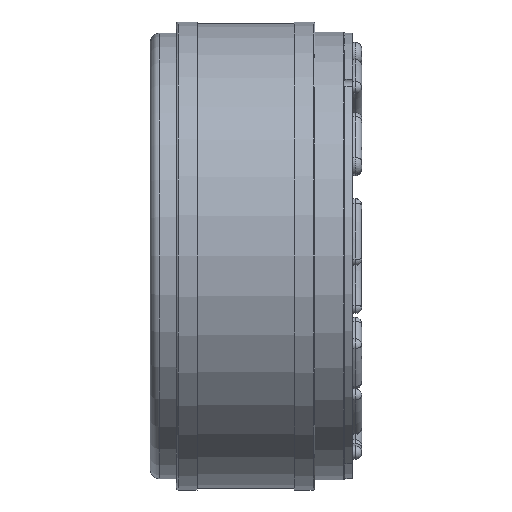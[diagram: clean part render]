
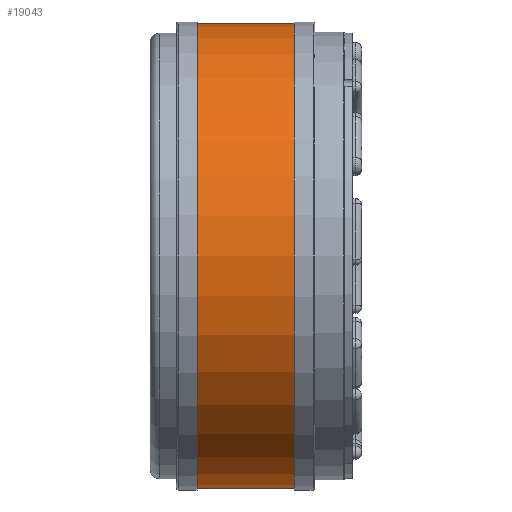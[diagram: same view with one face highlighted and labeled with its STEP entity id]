
A CAD part, front view. The second image highlights one B-rep face of the part: STEP entity #19043.
In plain terms, the highlighted cylindrical face has radius 24.8 mm (diameter 49.6 mm), a partial arc.
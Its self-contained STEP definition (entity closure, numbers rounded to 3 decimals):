
#1641 = AXIS2_PLACEMENT_3D ( 'NONE', #20665, #4013, #23442 ) ;
#2649 = VECTOR ( 'NONE', #5256, 1000. ) ;
#3205 = CARTESIAN_POINT ( 'NONE',  ( 5., 0., 0. ) ) ;
#3665 = EDGE_CURVE ( 'NONE', #8756, #9602, #19454, .T. ) ;
#4013 = DIRECTION ( 'NONE',  ( -1., 0., 0. ) ) ;
#4210 = CARTESIAN_POINT ( 'NONE',  ( 15.4, 0., 24.8 ) ) ;
#5256 = DIRECTION ( 'NONE',  ( -1., 0., 0. ) ) ;
#5510 = LINE ( 'NONE', #30630, #15941 ) ;
#6014 = DIRECTION ( 'NONE',  ( 0., 0., 1. ) ) ;
#8756 = VERTEX_POINT ( 'NONE', #16903 ) ;
#9602 = VERTEX_POINT ( 'NONE', #35247 ) ;
#10061 = LINE ( 'NONE', #30289, #2649 ) ;
#10252 = EDGE_CURVE ( 'NONE', #27685, #9602, #10061, .T. ) ;
#13197 = FACE_OUTER_BOUND ( 'NONE', #27267, .T. ) ;
#13327 = DIRECTION ( 'NONE',  ( -1., 0., 0. ) ) ;
#14608 = AXIS2_PLACEMENT_3D ( 'NONE', #3205, #22675, #6014 ) ;
#15433 = ORIENTED_EDGE ( 'NONE', *, *, #30167, .T. ) ;
#15941 = VECTOR ( 'NONE', #25041, 1000. ) ;
#16066 = CIRCLE ( 'NONE', #1641, 24.8 ) ;
#16903 = CARTESIAN_POINT ( 'NONE',  ( 5., 0., -24.8 ) ) ;
#18936 = CARTESIAN_POINT ( 'NONE',  ( 0., 0., 0. ) ) ;
#19043 = ADVANCED_FACE ( 'NONE', ( #13197 ), #27094, .T. ) ;
#19454 = CIRCLE ( 'NONE', #14608, 24.8 ) ;
#20665 = CARTESIAN_POINT ( 'NONE',  ( 15.4, 0., 0. ) ) ;
#22675 = DIRECTION ( 'NONE',  ( -1., 0., 0. ) ) ;
#23442 = DIRECTION ( 'NONE',  ( 0., 0., 1. ) ) ;
#24584 = ORIENTED_EDGE ( 'NONE', *, *, #10252, .T. ) ;
#25041 = DIRECTION ( 'NONE',  ( -1., 0., 0. ) ) ;
#25167 = VERTEX_POINT ( 'NONE', #27277 ) ;
#27094 = CYLINDRICAL_SURFACE ( 'NONE', #31555, 24.8 ) ;
#27240 = ORIENTED_EDGE ( 'NONE', *, *, #3665, .F. ) ;
#27267 = EDGE_LOOP ( 'NONE', ( #31024, #15433, #24584, #27240 ) ) ;
#27277 = CARTESIAN_POINT ( 'NONE',  ( 15.4, 0., -24.8 ) ) ;
#27685 = VERTEX_POINT ( 'NONE', #4210 ) ;
#30167 = EDGE_CURVE ( 'NONE', #25167, #27685, #16066, .T. ) ;
#30289 = CARTESIAN_POINT ( 'NONE',  ( 0., 0., 24.8 ) ) ;
#30630 = CARTESIAN_POINT ( 'NONE',  ( 0., 0., -24.8 ) ) ;
#31024 = ORIENTED_EDGE ( 'NONE', *, *, #32741, .F. ) ;
#31555 = AXIS2_PLACEMENT_3D ( 'NONE', #18936, #13327, #32725 ) ;
#32725 = DIRECTION ( 'NONE',  ( 0., 0., 1. ) ) ;
#32741 = EDGE_CURVE ( 'NONE', #25167, #8756, #5510, .T. ) ;
#35247 = CARTESIAN_POINT ( 'NONE',  ( 5., 0., 24.8 ) ) ;
